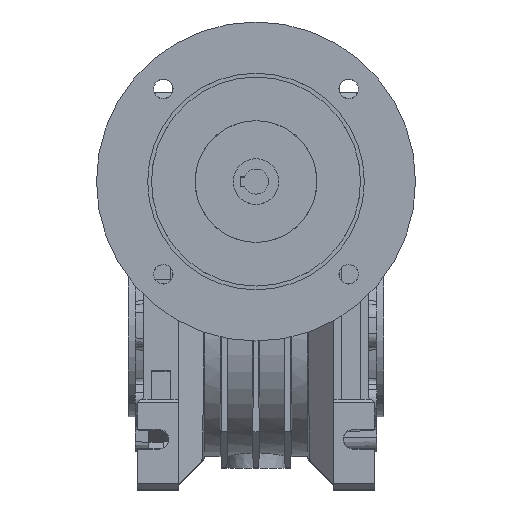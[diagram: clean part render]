
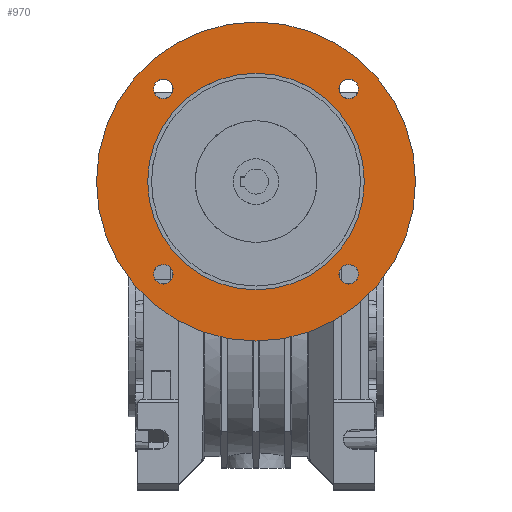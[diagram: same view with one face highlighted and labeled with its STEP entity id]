
A CAD part, top view. The second image highlights one B-rep face of the part: STEP entity #970.
In plain terms, the highlighted planar face has unit normal (0, 0, 1).
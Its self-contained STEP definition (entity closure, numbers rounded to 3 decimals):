
#970 = ADVANCED_FACE( 'NONE', ( #2876, #2877, #2878, #2879, #2880, #2881 ), #2882, .T. );
#2876 = FACE_OUTER_BOUND( '', #5838, .T. );
#2877 = FACE_BOUND( '', #5839, .T. );
#2878 = FACE_BOUND( '', #5840, .T. );
#2879 = FACE_BOUND( '', #5841, .T. );
#2880 = FACE_BOUND( '', #5842, .T. );
#2881 = FACE_BOUND( '', #5843, .T. );
#2882 = PLANE( '', #5844 );
#5838 = EDGE_LOOP( '', ( #9812 ) );
#5839 = EDGE_LOOP( '', ( #9813 ) );
#5840 = EDGE_LOOP( '', ( #9814 ) );
#5841 = EDGE_LOOP( '', ( #9815 ) );
#5842 = EDGE_LOOP( '', ( #9816 ) );
#5843 = EDGE_LOOP( '', ( #9817 ) );
#5844 = AXIS2_PLACEMENT_3D( '', #9818, #9819, #9820 );
#9812 = ORIENTED_EDGE( '', *, *, #18481, .T. );
#9813 = ORIENTED_EDGE( '', *, *, #18482, .T. );
#9814 = ORIENTED_EDGE( '', *, *, #18483, .T. );
#9815 = ORIENTED_EDGE( '', *, *, #18484, .T. );
#9816 = ORIENTED_EDGE( '', *, *, #18485, .T. );
#9817 = ORIENTED_EDGE( '', *, *, #18486, .T. );
#9818 = CARTESIAN_POINT( '', ( 0., -105., 21. ) );
#9819 = DIRECTION( '', ( 0., 0., 1. ) );
#9820 = DIRECTION( '', ( -1., 0., 0. ) );
#18481 = EDGE_CURVE( 'NONE', #21966, #21966, #21967, .T. );
#18482 = EDGE_CURVE( 'NONE', #21968, #21968, #21969, .F. );
#18483 = EDGE_CURVE( 'NONE', #21970, #21970, #21971, .F. );
#18484 = EDGE_CURVE( 'NONE', #21972, #21972, #21973, .F. );
#18485 = EDGE_CURVE( 'NONE', #21974, #21974, #21975, .F. );
#18486 = EDGE_CURVE( 'NONE', #21976, #21976, #21977, .F. );
#21966 = VERTEX_POINT( '', #27203 );
#21967 = CIRCLE( '', #27204, 69.974 );
#21968 = VERTEX_POINT( '', #27205 );
#21969 = CIRCLE( '', #27206, 4.296 );
#21970 = VERTEX_POINT( '', #27207 );
#21971 = CIRCLE( '', #27208, 4.296 );
#21972 = VERTEX_POINT( '', #27209 );
#21973 = CIRCLE( '', #27210, 4.296 );
#21974 = VERTEX_POINT( '', #27211 );
#21975 = CIRCLE( '', #27212, 4.296 );
#21976 = VERTEX_POINT( '', #27213 );
#21977 = CIRCLE( '', #27214, 47.5 );
#27203 = CARTESIAN_POINT( '', ( -69.974, 0., 21. ) );
#27204 = AXIS2_PLACEMENT_3D( '', #39149, #39150, #39151 );
#27205 = CARTESIAN_POINT( '', ( -44.955, 40.659, 21. ) );
#27206 = AXIS2_PLACEMENT_3D( '', #39152, #39153, #39154 );
#27207 = CARTESIAN_POINT( '', ( 36.363, -40.659, 21. ) );
#27208 = AXIS2_PLACEMENT_3D( '', #39155, #39156, #39157 );
#27209 = CARTESIAN_POINT( '', ( 36.363, 40.659, 21. ) );
#27210 = AXIS2_PLACEMENT_3D( '', #39158, #39159, #39160 );
#27211 = CARTESIAN_POINT( '', ( -44.955, -40.659, 21. ) );
#27212 = AXIS2_PLACEMENT_3D( '', #39161, #39162, #39163 );
#27213 = CARTESIAN_POINT( '', ( -47.5, 0., 21. ) );
#27214 = AXIS2_PLACEMENT_3D( '', #39164, #39165, #39166 );
#39149 = CARTESIAN_POINT( '', ( 0., 0., 21. ) );
#39150 = DIRECTION( '', ( 0., 0., 1. ) );
#39151 = DIRECTION( '', ( -1., 0., 0. ) );
#39152 = CARTESIAN_POINT( '', ( -40.659, 40.659, 21. ) );
#39153 = DIRECTION( '', ( 0., 0., 1. ) );
#39154 = DIRECTION( '', ( -1., 0., 0. ) );
#39155 = CARTESIAN_POINT( '', ( 40.659, -40.659, 21. ) );
#39156 = DIRECTION( '', ( 0., 0., 1. ) );
#39157 = DIRECTION( '', ( -1., 0., 0. ) );
#39158 = CARTESIAN_POINT( '', ( 40.659, 40.659, 21. ) );
#39159 = DIRECTION( '', ( 0., 0., 1. ) );
#39160 = DIRECTION( '', ( -1., 0., 0. ) );
#39161 = CARTESIAN_POINT( '', ( -40.659, -40.659, 21. ) );
#39162 = DIRECTION( '', ( 0., 0., 1. ) );
#39163 = DIRECTION( '', ( -1., 0., 0. ) );
#39164 = CARTESIAN_POINT( '', ( 0., 0., 21. ) );
#39165 = DIRECTION( '', ( 0., 0., 1. ) );
#39166 = DIRECTION( '', ( -1., 0., 0. ) );
